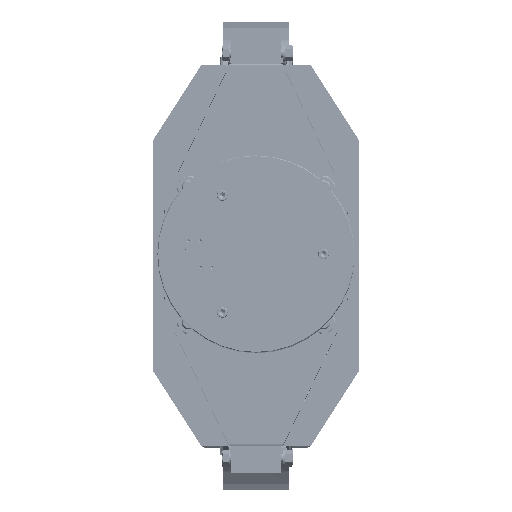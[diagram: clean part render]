
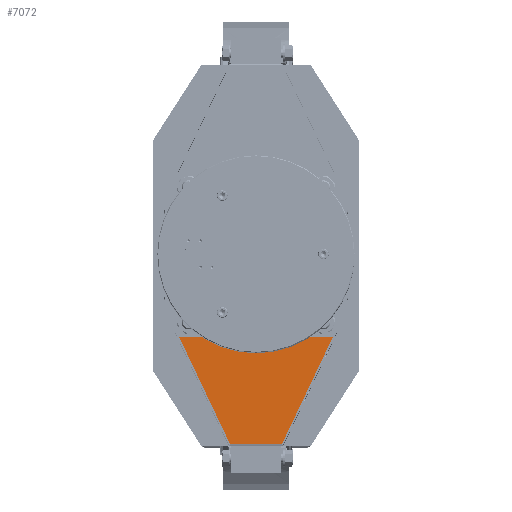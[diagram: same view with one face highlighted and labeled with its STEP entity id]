
A CAD part, top view. The second image highlights one B-rep face of the part: STEP entity #7072.
In plain terms, the highlighted planar face has unit normal (0, 0, 1).
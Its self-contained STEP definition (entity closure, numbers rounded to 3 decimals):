
#7072=ADVANCED_FACE('',(#20914),#20915,.F.);
#20914=FACE_OUTER_BOUND('',#43446,.T.);
#20915=PLANE('',#43447);
#43446=EDGE_LOOP('',(#92731,#92732,#92733,#92734));
#43447=AXIS2_PLACEMENT_3D('',#92735,#92736,#92737);
#92731=ORIENTED_EDGE('',*,*,#115056,.T.);
#92732=ORIENTED_EDGE('',*,*,#115060,.T.);
#92733=ORIENTED_EDGE('',*,*,#115061,.T.);
#92734=ORIENTED_EDGE('',*,*,#115062,.T.);
#92735=CARTESIAN_POINT('',(-88.,-230.468,1176.032));
#92736=DIRECTION('',(0.,0.,-1.0));
#92737=DIRECTION('',(0.,-1.0,0.));
#115056=EDGE_CURVE('',#142053,#142054,#142055,.T.);
#115060=EDGE_CURVE('',#142054,#142061,#142062,.T.);
#115061=EDGE_CURVE('',#142061,#142063,#142064,.T.);
#115062=EDGE_CURVE('',#142063,#142053,#142065,.T.);
#142053=VERTEX_POINT('',#200226);
#142054=VERTEX_POINT('',#200227);
#142055=LINE('',#200228,#200229);
#142061=VERTEX_POINT('',#200238);
#142062=LINE('',#200239,#200240);
#142063=VERTEX_POINT('',#200241);
#142064=LINE('',#200242,#200243);
#142065=LINE('',#200244,#200245);
#200226=CARTESIAN_POINT('',(44.,-322.968,1176.032));
#200227=CARTESIAN_POINT('',(132.0,-137.968,1176.032));
#200228=CARTESIAN_POINT('',(71.762,-264.604,1176.032));
#200229=VECTOR('',#230700,10.0);
#200238=CARTESIAN_POINT('',(-132.0,-137.968,1176.032));
#200239=CARTESIAN_POINT('',(-132.0,-137.968,1176.032));
#200240=VECTOR('',#230704,10.);
#200241=CARTESIAN_POINT('',(-44.,-322.968,1176.032));
#200242=CARTESIAN_POINT('',(-88.,-230.468,1176.032));
#200243=VECTOR('',#230705,10.);
#200244=CARTESIAN_POINT('',(132.,-322.968,1176.032));
#200245=VECTOR('',#230706,10.);
#230700=DIRECTION('',(0.43,0.903,0.));
#230704=DIRECTION('',(-1.0,0.,0.));
#230705=DIRECTION('',(0.43,-0.903,0.));
#230706=DIRECTION('',(1.0,0.,0.));
